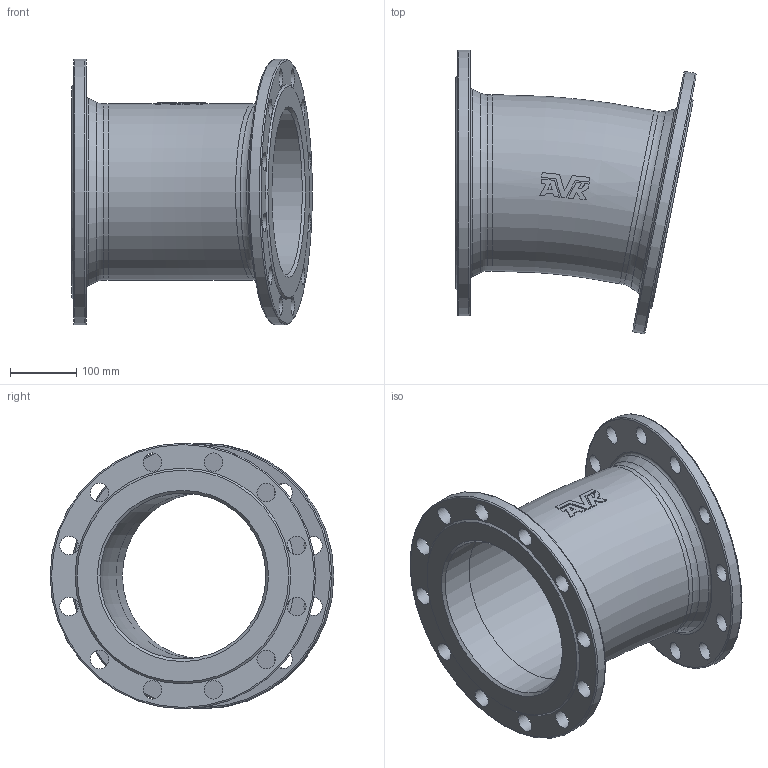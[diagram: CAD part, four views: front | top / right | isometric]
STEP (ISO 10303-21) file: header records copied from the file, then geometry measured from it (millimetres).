
FILE_DESCRIPTION (( 'STEP AP203' ), '1' );
FILE_NAME ('O_712_0110_DN250_1X_REV01.step', '2024-08-15T08:52:01', ( '' ), ( '' ), 'SwSTEP 2.0', 'SolidWorks 2022', '' );
FILE_SCHEMA (( 'CONFIG_CONTROL_DESIGN' ));
Length unit declared in the file: millimetre
Products named in the file (1): O_712_0110_DN250_1X_REV01
Bounding box: 362.55 x 427.4 x 400 mm (x, y, z)
Volume: 4830995.8 mm3; surface area: 830892.8 mm2
Topology: 1 solids, 1 shells, 93 faces, 264 edges, 181 vertices
Faces by surface type: plane 41, cylinder 32, torus 14, cone 6
Full cylindrical faces by diameter (mm): 28 x24, 250 x2, 266 x2, 400 x2
Entity records: 2876 total; most frequent: CARTESIAN_POINT 733, DIRECTION 377, ORIENTED_EDGE 374, EDGE_LOOP 197, EDGE_CURVE 187, AXIS2_PLACEMENT_3D 170, VERTEX_POINT 150, FACE_OUTER_BOUND 133
